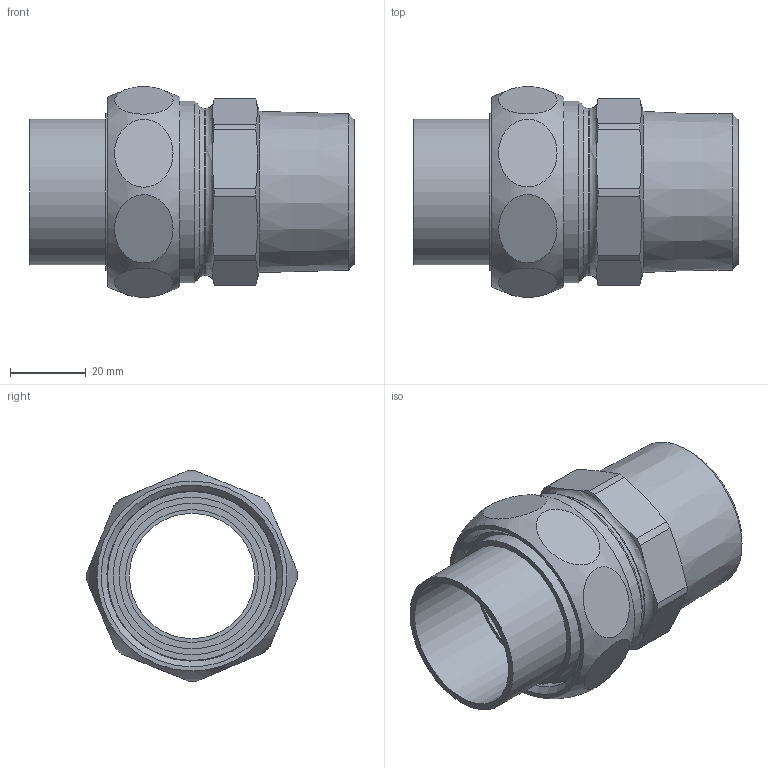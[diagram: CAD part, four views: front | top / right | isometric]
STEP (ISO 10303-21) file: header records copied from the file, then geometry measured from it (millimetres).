
FILE_DESCRIPTION(/* description */ (''),/* implementation_level */ '2;1');
FILE_NAME(/* name */ '\\lg50011\SANHA_LEGNICA\Engineering\Public\RYSUNKI\SANHA POLSKA\4343\Inventor\stp\1434335114.stp',/* time_stamp */ '2021-10-06T07:27:29+02:00',/* author */ ('gomulka'),/* organization */ (''),/* preprocessor_version */ 'ST-DEVELOPER v18.1',/* originating_system */ 'Autodesk Inventor 2021',/* authorisation */ '');
FILE_SCHEMA (('AUTOMOTIVE_DESIGN { 1 0 10303 214 3 1 1 }'));
Length unit declared in the file: millimetre
Products named in the file (4): 1434335114; 14381_35-112(2); R14374_112(0); 14386g_114-112(0)
Assembly tree (3 placements, depth 2):
  1434335114
    14381_35-112(2)
    R14374_112(0)
    14386g_114-112(0)
Bounding box: 85.36 x 55.49 x 55.49 mm (x, y, z)
Volume: 57506.2 mm3; surface area: 30882.5 mm2
Topology: 3 solids, 3 shells, 64 faces, 170 edges, 123 vertices
Faces by surface type: plane 26, cylinder 19, cone 15, torus 3, bspline 1
Full cylindrical faces by diameter (mm): 33 x1, 34 x1, 35 x1, 38.4 x1, 41.5 x1, 42 x1, 42.5 x1, 44 x1, 44.5 x1, 44.845 x1, 47.803 x1
Entity records: 2858 total; most frequent: CARTESIAN_POINT 1102, DIRECTION 356, ORIENTED_EDGE 340, EDGE_CURVE 170, AXIS2_PLACEMENT_3D 161, VERTEX_POINT 123, CIRCLE 91, EDGE_LOOP 81
